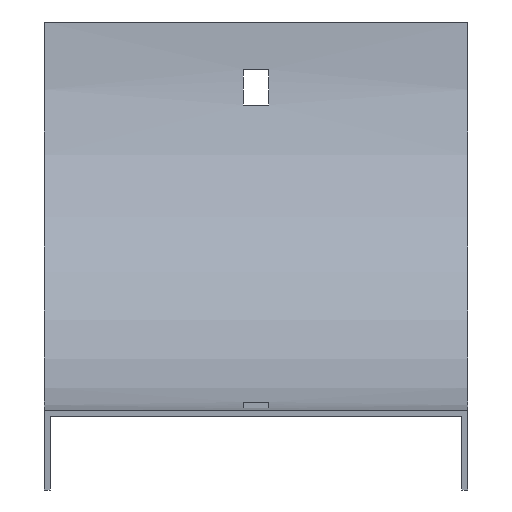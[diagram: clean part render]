
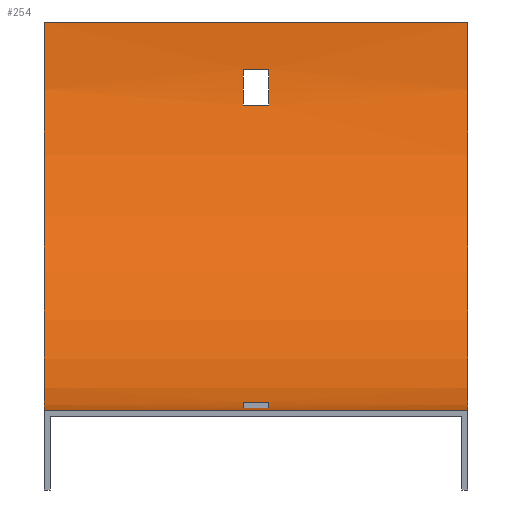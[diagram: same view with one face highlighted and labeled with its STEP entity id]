
A CAD part, top view. The second image highlights one B-rep face of the part: STEP entity #254.
In plain terms, the highlighted cylindrical face has radius 98.5 mm (diameter 197 mm), a partial arc.
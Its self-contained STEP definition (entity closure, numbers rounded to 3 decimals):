
#4 = VERTEX_POINT ( 'NONE', #269 ) ;
#9 = AXIS2_PLACEMENT_3D ( 'NONE', #331, #199, #564 ) ;
#12 = CARTESIAN_POINT ( 'NONE',  ( -53.5, 0., 0. ) ) ;
#14 = DIRECTION ( 'NONE',  ( 1., 0., 0. ) ) ;
#17 = CARTESIAN_POINT ( 'NONE',  ( -53.5, 98.5, 0. ) ) ;
#22 = AXIS2_PLACEMENT_3D ( 'NONE', #597, #82, #84 ) ;
#23 = CARTESIAN_POINT ( 'NONE',  ( 3.25, 98.5, 0. ) ) ;
#24 = DIRECTION ( 'NONE',  ( 0., 0., 1. ) ) ;
#37 = DIRECTION ( 'NONE',  ( -1., 0., 0. ) ) ;
#39 = LINE ( 'NONE', #128, #312 ) ;
#40 = CIRCLE ( 'NONE', #449, 98.5 ) ;
#66 = CARTESIAN_POINT ( 'NONE',  ( 53.5, 98.5, -98.5 ) ) ;
#71 = DIRECTION ( 'NONE',  ( 0., 1., 0. ) ) ;
#75 = CARTESIAN_POINT ( 'NONE',  ( 3.25, 2.265, -21. ) ) ;
#78 = AXIS2_PLACEMENT_3D ( 'NONE', #23, #487, #379 ) ;
#82 = DIRECTION ( 'NONE',  ( -1., 0., 0. ) ) ;
#84 = DIRECTION ( 'NONE',  ( 0., 0., -1. ) ) ;
#85 = ORIENTED_EDGE ( 'NONE', *, *, #225, .T. ) ;
#94 = VERTEX_POINT ( 'NONE', #375 ) ;
#100 = ORIENTED_EDGE ( 'NONE', *, *, #465, .T. ) ;
#101 = CARTESIAN_POINT ( 'NONE',  ( -3.25, 0.734, -12. ) ) ;
#110 = CIRCLE ( 'NONE', #224, 98.5 ) ;
#125 = EDGE_CURVE ( 'NONE', #372, #396, #40, .T. ) ;
#128 = CARTESIAN_POINT ( 'NONE',  ( 53.5, 98.5, -98.5 ) ) ;
#131 = FACE_BOUND ( 'NONE', #559, .T. ) ;
#134 = DIRECTION ( 'NONE',  ( -1., 0., 0. ) ) ;
#142 = CARTESIAN_POINT ( 'NONE',  ( 53.5, 0., 0. ) ) ;
#164 = CARTESIAN_POINT ( 'NONE',  ( 3.25, 0.734, -12. ) ) ;
#166 = VERTEX_POINT ( 'NONE', #536 ) ;
#181 = VECTOR ( 'NONE', #539, 1000. ) ;
#183 = LINE ( 'NONE', #142, #354 ) ;
#185 = DIRECTION ( 'NONE',  ( -1., 0., 0. ) ) ;
#191 = ORIENTED_EDGE ( 'NONE', *, *, #258, .T. ) ;
#192 = CARTESIAN_POINT ( 'NONE',  ( 53.5, 2.265, -21. ) ) ;
#194 = CARTESIAN_POINT ( 'NONE',  ( -3.25, 2.265, -21. ) ) ;
#199 = DIRECTION ( 'NONE',  ( -1., 0., 0. ) ) ;
#200 = ORIENTED_EDGE ( 'NONE', *, *, #346, .F. ) ;
#204 = VERTEX_POINT ( 'NONE', #322 ) ;
#210 = ORIENTED_EDGE ( 'NONE', *, *, #567, .F. ) ;
#216 = DIRECTION ( 'NONE',  ( -1., 0., 0. ) ) ;
#222 = VECTOR ( 'NONE', #14, 1000. ) ;
#224 = AXIS2_PLACEMENT_3D ( 'NONE', #17, #474, #341 ) ;
#225 = EDGE_CURVE ( 'NONE', #527, #585, #410, .T. ) ;
#227 = ORIENTED_EDGE ( 'NONE', *, *, #488, .F. ) ;
#231 = VERTEX_POINT ( 'NONE', #593 ) ;
#235 = EDGE_CURVE ( 'NONE', #4, #429, #183, .T. ) ;
#236 = CARTESIAN_POINT ( 'NONE',  ( 53.5, 77.5, -96.235 ) ) ;
#237 = ORIENTED_EDGE ( 'NONE', *, *, #483, .F. ) ;
#238 = EDGE_CURVE ( 'NONE', #585, #372, #393, .T. ) ;
#254 = ADVANCED_FACE ( 'NONE', ( #268, #447, #131 ), #309, .F. ) ;
#255 = LINE ( 'NONE', #591, #276 ) ;
#258 = EDGE_CURVE ( 'NONE', #493, #231, #39, .T. ) ;
#265 = EDGE_LOOP ( 'NONE', ( #433, #506, #200, #191 ) ) ;
#268 = FACE_OUTER_BOUND ( 'NONE', #265, .T. ) ;
#269 = CARTESIAN_POINT ( 'NONE',  ( 53.5, 0., 0. ) ) ;
#276 = VECTOR ( 'NONE', #301, 1000. ) ;
#293 = CARTESIAN_POINT ( 'NONE',  ( -3.25, 98.5, 0. ) ) ;
#301 = DIRECTION ( 'NONE',  ( -1., 0., 0. ) ) ;
#309 = CYLINDRICAL_SURFACE ( 'NONE', #472, 98.5 ) ;
#312 = VECTOR ( 'NONE', #134, 1000. ) ;
#322 = CARTESIAN_POINT ( 'NONE',  ( 3.25, 77.5, -96.235 ) ) ;
#327 = LINE ( 'NONE', #236, #222 ) ;
#331 = CARTESIAN_POINT ( 'NONE',  ( 53.5, 98.5, 0. ) ) ;
#341 = DIRECTION ( 'NONE',  ( 0., 0., 1. ) ) ;
#344 = DIRECTION ( 'NONE',  ( 1., 0., 0. ) ) ;
#346 = EDGE_CURVE ( 'NONE', #493, #4, #477, .T. ) ;
#348 = DIRECTION ( 'NONE',  ( 1., 0., 0. ) ) ;
#352 = EDGE_CURVE ( 'NONE', #166, #204, #327, .T. ) ;
#354 = VECTOR ( 'NONE', #185, 1000. ) ;
#357 = EDGE_LOOP ( 'NONE', ( #457, #463, #100, #85 ) ) ;
#372 = VERTEX_POINT ( 'NONE', #101 ) ;
#375 = CARTESIAN_POINT ( 'NONE',  ( 3.25, 86.5, -97.766 ) ) ;
#379 = DIRECTION ( 'NONE',  ( 0., 0., 1. ) ) ;
#393 = LINE ( 'NONE', #595, #181 ) ;
#396 = VERTEX_POINT ( 'NONE', #194 ) ;
#410 = CIRCLE ( 'NONE', #22, 98.5 ) ;
#428 = VERTEX_POINT ( 'NONE', #510 ) ;
#429 = VERTEX_POINT ( 'NONE', #12 ) ;
#433 = ORIENTED_EDGE ( 'NONE', *, *, #528, .T. ) ;
#447 = FACE_BOUND ( 'NONE', #357, .T. ) ;
#449 = AXIS2_PLACEMENT_3D ( 'NONE', #481, #348, #24 ) ;
#451 = DIRECTION ( 'NONE',  ( 0., 0., 1. ) ) ;
#457 = ORIENTED_EDGE ( 'NONE', *, *, #238, .T. ) ;
#463 = ORIENTED_EDGE ( 'NONE', *, *, #125, .T. ) ;
#465 = EDGE_CURVE ( 'NONE', #396, #527, #518, .T. ) ;
#472 = AXIS2_PLACEMENT_3D ( 'NONE', #546, #37, #451 ) ;
#474 = DIRECTION ( 'NONE',  ( -1., 0., 0. ) ) ;
#477 = CIRCLE ( 'NONE', #9, 98.5 ) ;
#481 = CARTESIAN_POINT ( 'NONE',  ( -3.25, 98.5, 0. ) ) ;
#482 = ORIENTED_EDGE ( 'NONE', *, *, #352, .F. ) ;
#483 = EDGE_CURVE ( 'NONE', #428, #166, #549, .T. ) ;
#487 = DIRECTION ( 'NONE',  ( 1., 0., 0. ) ) ;
#488 = EDGE_CURVE ( 'NONE', #94, #428, #255, .T. ) ;
#493 = VERTEX_POINT ( 'NONE', #66 ) ;
#506 = ORIENTED_EDGE ( 'NONE', *, *, #235, .F. ) ;
#510 = CARTESIAN_POINT ( 'NONE',  ( -3.25, 86.5, -97.766 ) ) ;
#518 = LINE ( 'NONE', #192, #587 ) ;
#527 = VERTEX_POINT ( 'NONE', #75 ) ;
#528 = EDGE_CURVE ( 'NONE', #231, #429, #110, .T. ) ;
#536 = CARTESIAN_POINT ( 'NONE',  ( -3.25, 77.5, -96.235 ) ) ;
#539 = DIRECTION ( 'NONE',  ( -1., 0., 0. ) ) ;
#546 = CARTESIAN_POINT ( 'NONE',  ( 53.5, 98.5, 0. ) ) ;
#549 = CIRCLE ( 'NONE', #574, 98.5 ) ;
#559 = EDGE_LOOP ( 'NONE', ( #237, #227, #210, #482 ) ) ;
#564 = DIRECTION ( 'NONE',  ( 0., 0., 1. ) ) ;
#567 = EDGE_CURVE ( 'NONE', #204, #94, #605, .T. ) ;
#574 = AXIS2_PLACEMENT_3D ( 'NONE', #293, #216, #71 ) ;
#585 = VERTEX_POINT ( 'NONE', #164 ) ;
#587 = VECTOR ( 'NONE', #344, 1000. ) ;
#591 = CARTESIAN_POINT ( 'NONE',  ( 53.5, 86.5, -97.766 ) ) ;
#593 = CARTESIAN_POINT ( 'NONE',  ( -53.5, 98.5, -98.5 ) ) ;
#595 = CARTESIAN_POINT ( 'NONE',  ( 53.5, 0.734, -12. ) ) ;
#597 = CARTESIAN_POINT ( 'NONE',  ( 3.25, 98.5, 0. ) ) ;
#605 = CIRCLE ( 'NONE', #78, 98.5 ) ;
